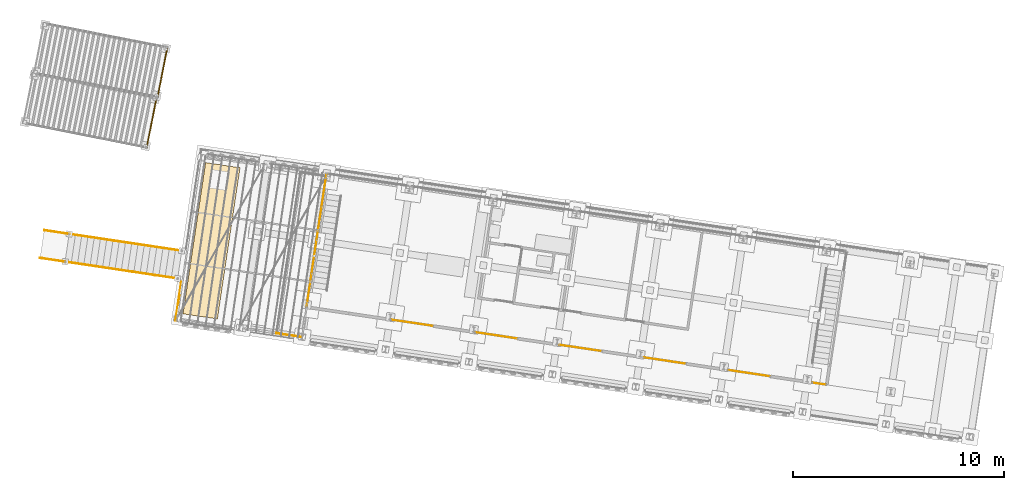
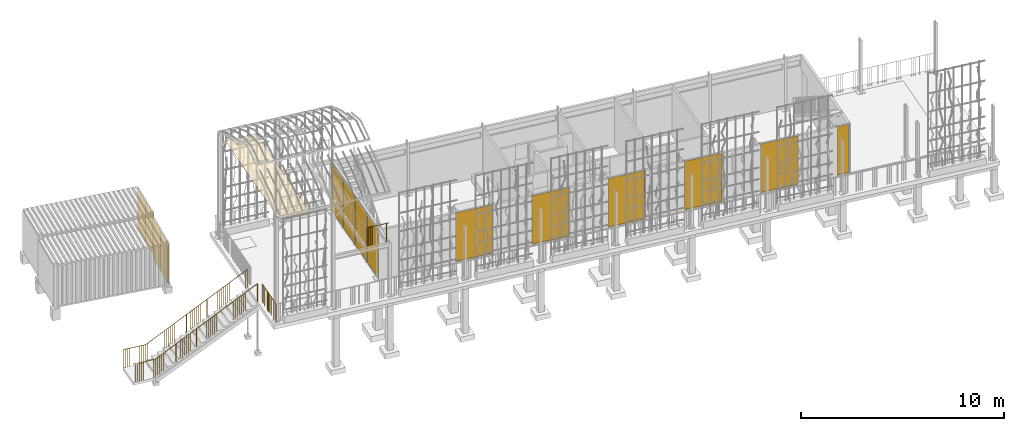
# One storey, part 138 of 143: 11 doors, 6 railings, 3 windows, 1 covering, 5 elements without a shape of their own.
"""IFC4 building model written with IfcOpenShell, lengths in metres."""

from ifc_helpers import new_model, si_unit, direction, frame, origin_with_axes, place, context, subcontext, project, spatial, polyline, circle, outline, extrude, material, element, aggregate, save


model = new_model("IFC4")

# Units and contexts
model_context = context("Model", 3, precision=1e-05, world=origin_with_axes(), true_north=direction((0.0, 1.0)))
body_context = subcontext(model_context, "Body", "Model", "MODEL_VIEW")
ifc_project = project(units=[si_unit("VOLUMEUNIT", "CUBIC_METRE"), si_unit("LENGTHUNIT", "METRE"), si_unit("AREAUNIT", "SQUARE_METRE")], contexts=[model_context])

# Site, building, storey
site_placement = place(None, origin_with_axes())
site = spatial("IfcSite", under=ifc_project, at=site_placement, Name="Lares · Rua das Mercês · artigo 4771")
building_placement = place(site_placement, frame((15.0, 9.7, 15.8), z_axis=(0.0, 0.0, 1.0), x_axis=(0.989015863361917, -0.147809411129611, 0.0)))
building = spatial("IfcBuilding", under=site, at=building_placement, Name="Casa Sobreposta")
storey_placement = place(building_placement, origin_with_axes())
storey = spatial("IfcBuildingStorey", under=building, at=storey_placement, Name="00 · Habitação e estacionamento", Elevation=15.8)

# Doors
ifc_material_1 = material(Name="Vidro / Normalglas", Category="glass")
door_1_placement = place(storey_placement, frame((0.0, 0.0, 0.025), z_axis=(0.0, 0.0, 1.0), x_axis=(1.0, 0.0, 0.0)))
element("IfcDoor", 1, at=door_1_placement, inside=storey, material=ifc_material_1, Name="Folha de correr sul 2", OperationType="SLIDING_TO_LEFT", OverallHeight=2.918, OverallWidth=1.97133333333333, PredefinedType="DOOR", context=body_context, shape_type="SweptSolid", body=[
    extrude(outline(polyline([(6.039, 0.004), (6.039, -0.004), (4.06766666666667, -0.004), (4.06766666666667, 0.004), (6.039, 0.004)])), origin_with_axes(), (0.0, 0.0, 1.0), 2.918),
])
door_2_placement = place(storey_placement, frame((0.0, 0.0, 0.025), z_axis=(0.0, 0.0, 1.0), x_axis=(1.0, 0.0, 0.0)))
element("IfcDoor", 2, at=door_2_placement, inside=storey, material=ifc_material_1, Name="Folha de correr sul 4", OperationType="SLIDING_TO_LEFT", OverallHeight=2.918, OverallWidth=1.97133333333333, PredefinedType="DOOR", context=body_context, shape_type="SweptSolid", body=[
    extrude(outline(polyline([(10.0816666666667, 0.004), (10.0816666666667, -0.004), (8.11033333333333, -0.004), (8.11033333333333, 0.004), (10.0816666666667, 0.004)])), origin_with_axes(), (0.0, 0.0, 1.0), 2.918),
])
door_3_placement = place(storey_placement, frame((0.0, 0.0, 0.025), z_axis=(0.0, 0.0, 1.0), x_axis=(1.0, 0.0, 0.0)))
element("IfcDoor", 3, at=door_3_placement, inside=storey, material=ifc_material_1, Name="Folha de correr sul 6", OperationType="SLIDING_TO_LEFT", OverallHeight=2.918, OverallWidth=1.97133333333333, PredefinedType="DOOR", context=body_context, shape_type="SweptSolid", body=[
    extrude(outline(polyline([(14.1243333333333, 0.004), (14.1243333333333, -0.004), (12.153, -0.004), (12.153, 0.004), (14.1243333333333, 0.004)])), origin_with_axes(), (0.0, 0.0, 1.0), 2.918),
])
door_4_placement = place(storey_placement, frame((0.0, 0.0, 0.025), z_axis=(0.0, 0.0, 1.0), x_axis=(1.0, 0.0, 0.0)))
element("IfcDoor", 4, at=door_4_placement, inside=storey, material=ifc_material_1, Name="Folha de correr sul 8", OperationType="SLIDING_TO_LEFT", OverallHeight=2.918, OverallWidth=1.97133333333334, PredefinedType="DOOR", context=body_context, shape_type="SweptSolid", body=[
    extrude(outline(polyline([(18.167, 0.004), (18.167, -0.004), (16.1956666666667, -0.004), (16.1956666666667, 0.004), (18.167, 0.004)])), origin_with_axes(), (0.0, 0.0, 1.0), 2.918),
])
door_5_placement = place(storey_placement, frame((0.0, 0.0, 0.025), z_axis=(0.0, 0.0, 1.0), x_axis=(1.0, 0.0, 0.0)))
element("IfcDoor", 5, at=door_5_placement, inside=storey, material=ifc_material_1, Name="Folha de correr sul 10", OperationType="SLIDING_TO_LEFT", OverallHeight=2.918, OverallWidth=1.97133333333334, PredefinedType="DOOR", context=body_context, shape_type="SweptSolid", body=[
    extrude(outline(polyline([(22.2096666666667, 0.004), (22.2096666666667, -0.004), (20.2383333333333, -0.004), (20.2383333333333, 0.004), (22.2096666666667, 0.004)])), origin_with_axes(), (0.0, 0.0, 1.0), 2.918),
])
door_6_placement = place(storey_placement, frame((0.0, 0.0, 0.025), z_axis=(0.0, 0.0, 1.0), x_axis=(1.0, 0.0, 0.0)))
element("IfcDoor", 6, at=door_6_placement, inside=storey, material=ifc_material_1, Name="Folha de correr sul 12", OperationType="SLIDING_TO_LEFT", OverallHeight=2.918, OverallWidth=0.614000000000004, PredefinedType="DOOR", context=body_context, shape_type="SweptSolid", body=[
    extrude(outline(polyline([(24.895, 0.004), (24.895, -0.004), (24.281, -0.004), (24.281, 0.004), (24.895, 0.004)])), origin_with_axes(), (0.0, 0.0, 1.0), 2.918),
])

# Windows
window_1_placement = place(storey_placement, frame((0.0, 0.0, 0.025), z_axis=(0.0, 0.0, 1.0), x_axis=(1.0, 0.0, 0.0)))
element("IfcWindow", 7, at=window_1_placement, inside=storey, material=ifc_material_1, Name="Fachada poente integralmente envidraçada · módulo 1", OverallHeight=2.918, OverallWidth=1.55, PartitioningType="SINGLE_PANEL", PredefinedType="WINDOW", context=body_context, shape_type="SweptSolid", body=[
    extrude(outline(polyline([(-0.004, 1.575), (0.004, 1.575), (0.004, 0.025), (-0.004, 0.025), (-0.004, 1.575)])), origin_with_axes(), (0.0, 0.0, 1.0), 2.918),
])
window_2_placement = place(storey_placement, frame((0.0, 0.0, 0.025), z_axis=(0.0, 0.0, 1.0), x_axis=(1.0, 0.0, 0.0)))
element("IfcWindow", 8, at=window_2_placement, inside=storey, material=ifc_material_1, Name="Fachada poente integralmente envidraçada · módulo 2", OverallHeight=2.918, OverallWidth=1.55, PartitioningType="SINGLE_PANEL", PredefinedType="WINDOW", context=body_context, shape_type="SweptSolid", body=[
    extrude(outline(polyline([(-0.004, 3.175), (0.004, 3.175), (0.004, 1.625), (-0.004, 1.625), (-0.004, 3.175)])), origin_with_axes(), (0.0, 0.0, 1.0), 2.918),
])
window_3_placement = place(storey_placement, frame((0.0, 0.0, 0.025), z_axis=(0.0, 0.0, 1.0), x_axis=(1.0, 0.0, 0.0)))
element("IfcWindow", 9, at=window_3_placement, inside=storey, material=ifc_material_1, Name="Fachada poente integralmente envidraçada · módulo 3", OverallHeight=2.918, OverallWidth=1.55, PartitioningType="SINGLE_PANEL", PredefinedType="WINDOW", context=body_context, shape_type="SweptSolid", body=[
    extrude(outline(polyline([(-0.004, 4.775), (0.004, 4.775), (0.004, 3.225), (-0.004, 3.225), (-0.004, 4.775)])), origin_with_axes(), (0.0, 0.0, 1.0), 2.918),
])

# Door
door_7_placement = place(storey_placement, frame((0.0, 0.0, 0.025), z_axis=(0.0, 0.0, 1.0), x_axis=(1.0, 0.0, 0.0)))
element("IfcDoor", 10, at=door_7_placement, inside=storey, material=ifc_material_1, Name="Fachada poente integralmente envidraçada · módulo 4", OperationType="SLIDING_TO_LEFT", OverallHeight=2.918, OverallWidth=1.55, PredefinedType="DOOR", context=body_context, shape_type="SweptSolid", body=[
    extrude(outline(polyline([(-0.004, 6.375), (0.004, 6.375), (0.004, 4.825), (-0.004, 4.825), (-0.004, 6.375)])), origin_with_axes(), (0.0, 0.0, 1.0), 2.918),
])

# Assembly, doors
assembly_1_placement = place(storey_placement, frame((-14.4335953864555, 9.04888612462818, 0.0), z_axis=(0.0, 0.0, 1.0), x_axis=(0.999032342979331, -0.0439815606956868, 0.0)))
assembly_1 = element("IfcElementAssembly", 11, at=assembly_1_placement, inside=storey, Name="Contentor existente 1 · 6 m", ObjectType="EXISTING_SHIPPING_CONTAINER", PredefinedType="USERDEFINED")
ifc_material_2 = material(Name="Contentor · pintura 1", Category="steel")
door_8_placement = place(assembly_1_placement, frame((0.0, 0.0, -2.06314181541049), z_axis=(0.0, 0.0, 1.0), x_axis=(1.0, 0.0, 0.0)))
door_8 = element("IfcDoor", 12, at=door_8_placement, material=ifc_material_2, Name="Contentor · porta dupla", OperationType="SINGLE_SWING_LEFT", OverallHeight=2.39, OverallWidth=1.17, PredefinedType="DOOR", context=body_context, shape_type="SweptSolid", body=[
    extrude(outline(polyline([(5.955, 1.21), (6.005, 1.21), (6.005, 0.04), (5.955, 0.04), (5.955, 1.21)])), origin_with_axes(), (0.0, 0.0, 1.0), 2.39),
])
door_9_placement = place(assembly_1_placement, frame((0.0, 0.0, -2.06314181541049), z_axis=(0.0, 0.0, 1.0), x_axis=(1.0, 0.0, 0.0)))
door_9 = element("IfcDoor", 13, at=door_9_placement, material=ifc_material_2, Name="Contentor · porta dupla", OperationType="SINGLE_SWING_LEFT", OverallHeight=2.39, OverallWidth=1.17, PredefinedType="DOOR", context=body_context, shape_type="SweptSolid", body=[
    extrude(outline(polyline([(5.955, 2.39), (6.005, 2.39), (6.005, 1.22), (5.955, 1.22), (5.955, 2.39)])), origin_with_axes(), (0.0, 0.0, 1.0), 2.39),
])
aggregate(assembly_1, [door_8, door_9])

assembly_2_placement = place(storey_placement, frame((-14.5932944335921, 6.63122214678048, 0.0), z_axis=(0.0, 0.0, 1.0), x_axis=(0.998832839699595, -0.0483007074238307, 0.0)))
assembly_2 = element("IfcElementAssembly", 14, at=assembly_2_placement, inside=storey, Name="Contentor existente 2 · 6 m", ObjectType="EXISTING_SHIPPING_CONTAINER", PredefinedType="USERDEFINED")
ifc_material_3 = material(Name="Contentor · pintura 2", Category="steel")
door_10_placement = place(assembly_2_placement, frame((0.0, 0.0, -2.21875169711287), z_axis=(0.0, 0.0, 1.0), x_axis=(1.0, 0.0, 0.0)))
door_10 = element("IfcDoor", 15, at=door_10_placement, material=ifc_material_3, Name="Contentor · porta dupla", OperationType="SINGLE_SWING_LEFT", OverallHeight=2.39, OverallWidth=1.17, PredefinedType="DOOR", context=body_context, shape_type="SweptSolid", body=[
    extrude(outline(polyline([(5.955, 1.21), (6.005, 1.21), (6.005, 0.04), (5.955, 0.04), (5.955, 1.21)])), origin_with_axes(), (0.0, 0.0, 1.0), 2.39),
])
door_11_placement = place(assembly_2_placement, frame((0.0, 0.0, -2.21875169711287), z_axis=(0.0, 0.0, 1.0), x_axis=(1.0, 0.0, 0.0)))
door_11 = element("IfcDoor", 16, at=door_11_placement, material=ifc_material_3, Name="Contentor · porta dupla", OperationType="SINGLE_SWING_LEFT", OverallHeight=2.39, OverallWidth=1.17, PredefinedType="DOOR", context=body_context, shape_type="SweptSolid", body=[
    extrude(outline(polyline([(5.955, 2.39), (6.005, 2.39), (6.005, 1.22), (5.955, 1.22), (5.955, 2.39)])), origin_with_axes(), (0.0, 0.0, 1.0), 2.39),
])
aggregate(assembly_2, [door_10, door_11])

# Assembly, railing
assembly_3_placement = place(storey_placement, origin_with_axes())
assembly_3 = element("IfcElementAssembly", 17, at=assembly_3_placement, inside=storey, Name="Pódio · terraço, casa térrea e cisterna", ObjectType="CISTERN_PODIUM", PredefinedType="USERDEFINED")
ifc_material_4 = material(Name="Aço pintado / Stahl lackiert", Category="steel")
railing_1_placement = place(assembly_3_placement, origin_with_axes())
railing_1 = element("IfcRailing", 18, at=railing_1_placement, material=ifc_material_4, Name="Pódio · guarda poente sul", PredefinedType="GUARDRAIL", context=body_context, shape_type="SweptSolid", body=[
    extrude(circle(Radius=0.015), frame((-6.05, -1.55, 1.06), z_axis=(0.0, 1.0, 0.0), x_axis=(1.0, 0.0, 0.0)), (0.0, 0.0, 1.0), 1.85),
    extrude(circle(Radius=0.0175), frame((-6.05, -1.55, -0.04), z_axis=(0.0, 0.0, 1.0), x_axis=(1.0, 0.0, 0.0)), (0.0, 0.0, 1.0), 1.1),
    extrude(circle(Radius=0.006), frame((-6.05, -1.44117647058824, -0.04), z_axis=(0.0, 0.0, 1.0), x_axis=(1.0, 0.0, 0.0)), (0.0, 0.0, 1.0), 1.1),
    extrude(circle(Radius=0.006), frame((-6.05, -1.33235294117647, -0.04), z_axis=(0.0, 0.0, 1.0), x_axis=(1.0, 0.0, 0.0)), (0.0, 0.0, 1.0), 1.1),
    extrude(circle(Radius=0.006), frame((-6.05, -1.22352941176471, -0.04), z_axis=(0.0, 0.0, 1.0), x_axis=(1.0, 0.0, 0.0)), (0.0, 0.0, 1.0), 1.1),
    extrude(circle(Radius=0.006), frame((-6.05, -1.11470588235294, -0.04), z_axis=(0.0, 0.0, 1.0), x_axis=(1.0, 0.0, 0.0)), (0.0, 0.0, 1.0), 1.1),
    extrude(circle(Radius=0.006), frame((-6.05, -1.00588235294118, -0.04), z_axis=(0.0, 0.0, 1.0), x_axis=(1.0, 0.0, 0.0)), (0.0, 0.0, 1.0), 1.1),
    extrude(circle(Radius=0.006), frame((-6.05, -0.897058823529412, -0.04), z_axis=(0.0, 0.0, 1.0), x_axis=(1.0, 0.0, 0.0)), (0.0, 0.0, 1.0), 1.1),
    extrude(circle(Radius=0.006), frame((-6.05, -0.788235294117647, -0.04), z_axis=(0.0, 0.0, 1.0), x_axis=(1.0, 0.0, 0.0)), (0.0, 0.0, 1.0), 1.1),
    extrude(circle(Radius=0.006), frame((-6.05, -0.679411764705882, -0.04), z_axis=(0.0, 0.0, 1.0), x_axis=(1.0, 0.0, 0.0)), (0.0, 0.0, 1.0), 1.1),
    extrude(circle(Radius=0.006), frame((-6.05, -0.570588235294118, -0.04), z_axis=(0.0, 0.0, 1.0), x_axis=(1.0, 0.0, 0.0)), (0.0, 0.0, 1.0), 1.1),
    extrude(circle(Radius=0.0175), frame((-6.05, -0.461764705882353, -0.04), z_axis=(0.0, 0.0, 1.0), x_axis=(1.0, 0.0, 0.0)), (0.0, 0.0, 1.0), 1.1),
    extrude(circle(Radius=0.006), frame((-6.05, -0.352941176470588, -0.04), z_axis=(0.0, 0.0, 1.0), x_axis=(1.0, 0.0, 0.0)), (0.0, 0.0, 1.0), 1.1),
    extrude(circle(Radius=0.006), frame((-6.05, -0.244117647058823, -0.04), z_axis=(0.0, 0.0, 1.0), x_axis=(1.0, 0.0, 0.0)), (0.0, 0.0, 1.0), 1.1),
    extrude(circle(Radius=0.006), frame((-6.05, -0.135294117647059, -0.04), z_axis=(0.0, 0.0, 1.0), x_axis=(1.0, 0.0, 0.0)), (0.0, 0.0, 1.0), 1.1),
    extrude(circle(Radius=0.006), frame((-6.05, -0.0264705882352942, -0.04), z_axis=(0.0, 0.0, 1.0), x_axis=(1.0, 0.0, 0.0)), (0.0, 0.0, 1.0), 1.1),
    extrude(circle(Radius=0.006), frame((-6.05, 0.0823529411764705, -0.04), z_axis=(0.0, 0.0, 1.0), x_axis=(1.0, 0.0, 0.0)), (0.0, 0.0, 1.0), 1.1),
    extrude(circle(Radius=0.006), frame((-6.05, 0.191176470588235, -0.04), z_axis=(0.0, 0.0, 1.0), x_axis=(1.0, 0.0, 0.0)), (0.0, 0.0, 1.0), 1.1),
    extrude(circle(Radius=0.006), frame((-6.05, 0.3, -0.04), z_axis=(0.0, 0.0, 1.0), x_axis=(1.0, 0.0, 0.0)), (0.0, 0.0, 1.0), 1.1),
])
aggregate(assembly_3, [railing_1])

# Stair, railings
stair_placement = place(storey_placement, origin_with_axes())
stair = element("IfcStair", 19, at=stair_placement, inside=storey, Name="Jardim · escada pela fachada poente", PredefinedType="STRAIGHT_RUN_STAIR")
railing_2_placement = place(stair_placement, origin_with_axes())
railing_2 = element("IfcRailing", 20, at=railing_2_placement, material=ifc_material_4, Name="Jardim · corrimão poente", PredefinedType="GUARDRAIL", context=body_context, shape_type="SweptSolid", body=[
    extrude(circle(Radius=0.015), frame((-6.25, 0.435, 1.06), z_axis=(-0.863082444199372, 0.0, -0.505063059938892), x_axis=(0.0, 1.0, 0.0)), (0.0, 0.0, 1.0), 6.25664446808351),
    extrude(circle(Radius=0.0175), frame((-6.25, 0.435, -0.04), z_axis=(0.0, 0.0, 1.0), x_axis=(1.0, 0.0, 0.0)), (0.0, 0.0, 1.0), 1.1),
    extrude(circle(Radius=0.006), frame((-6.358, 0.435, -0.1032), z_axis=(0.0, 0.0, 1.0), x_axis=(1.0, 0.0, 0.0)), (0.0, 0.0, 1.0), 1.1),
    extrude(circle(Radius=0.006), frame((-6.466, 0.435, -0.1664), z_axis=(0.0, 0.0, 1.0), x_axis=(1.0, 0.0, 0.0)), (0.0, 0.0, 1.0), 1.1),
    extrude(circle(Radius=0.006), frame((-6.574, 0.435, -0.2296), z_axis=(0.0, 0.0, 1.0), x_axis=(1.0, 0.0, 0.0)), (0.0, 0.0, 1.0), 1.1),
    extrude(circle(Radius=0.006), frame((-6.682, 0.435, -0.2928), z_axis=(0.0, 0.0, 1.0), x_axis=(1.0, 0.0, 0.0)), (0.0, 0.0, 1.0), 1.1),
    extrude(circle(Radius=0.006), frame((-6.79, 0.435, -0.356), z_axis=(0.0, 0.0, 1.0), x_axis=(1.0, 0.0, 0.0)), (0.0, 0.0, 1.0), 1.1),
    extrude(circle(Radius=0.006), frame((-6.898, 0.435, -0.4192), z_axis=(0.0, 0.0, 1.0), x_axis=(1.0, 0.0, 0.0)), (0.0, 0.0, 1.0), 1.1),
    extrude(circle(Radius=0.006), frame((-7.006, 0.435, -0.4824), z_axis=(0.0, 0.0, 1.0), x_axis=(1.0, 0.0, 0.0)), (0.0, 0.0, 1.0), 1.1),
    extrude(circle(Radius=0.006), frame((-7.114, 0.435, -0.5456), z_axis=(0.0, 0.0, 1.0), x_axis=(1.0, 0.0, 0.0)), (0.0, 0.0, 1.0), 1.1),
    extrude(circle(Radius=0.006), frame((-7.222, 0.435, -0.6088), z_axis=(0.0, 0.0, 1.0), x_axis=(1.0, 0.0, 0.0)), (0.0, 0.0, 1.0), 1.1),
    extrude(circle(Radius=0.0175), frame((-7.33, 0.435, -0.672), z_axis=(0.0, 0.0, 1.0), x_axis=(1.0, 0.0, 0.0)), (0.0, 0.0, 1.0), 1.1),
    extrude(circle(Radius=0.006), frame((-7.438, 0.435, -0.7352), z_axis=(0.0, 0.0, 1.0), x_axis=(1.0, 0.0, 0.0)), (0.0, 0.0, 1.0), 1.1),
    extrude(circle(Radius=0.006), frame((-7.546, 0.435, -0.7984), z_axis=(0.0, 0.0, 1.0), x_axis=(1.0, 0.0, 0.0)), (0.0, 0.0, 1.0), 1.1),
    extrude(circle(Radius=0.006), frame((-7.654, 0.435, -0.8616), z_axis=(0.0, 0.0, 1.0), x_axis=(1.0, 0.0, 0.0)), (0.0, 0.0, 1.0), 1.1),
    extrude(circle(Radius=0.006), frame((-7.762, 0.435, -0.9248), z_axis=(0.0, 0.0, 1.0), x_axis=(1.0, 0.0, 0.0)), (0.0, 0.0, 1.0), 1.1),
    extrude(circle(Radius=0.006), frame((-7.87, 0.435, -0.988), z_axis=(0.0, 0.0, 1.0), x_axis=(1.0, 0.0, 0.0)), (0.0, 0.0, 1.0), 1.1),
    extrude(circle(Radius=0.006), frame((-7.978, 0.435, -1.0512), z_axis=(0.0, 0.0, 1.0), x_axis=(1.0, 0.0, 0.0)), (0.0, 0.0, 1.0), 1.1),
    extrude(circle(Radius=0.006), frame((-8.086, 0.435, -1.1144), z_axis=(0.0, 0.0, 1.0), x_axis=(1.0, 0.0, 0.0)), (0.0, 0.0, 1.0), 1.1),
    extrude(circle(Radius=0.006), frame((-8.194, 0.435, -1.1776), z_axis=(0.0, 0.0, 1.0), x_axis=(1.0, 0.0, 0.0)), (0.0, 0.0, 1.0), 1.1),
    extrude(circle(Radius=0.006), frame((-8.302, 0.435, -1.2408), z_axis=(0.0, 0.0, 1.0), x_axis=(1.0, 0.0, 0.0)), (0.0, 0.0, 1.0), 1.1),
    extrude(circle(Radius=0.0175), frame((-8.41, 0.435, -1.304), z_axis=(0.0, 0.0, 1.0), x_axis=(1.0, 0.0, 0.0)), (0.0, 0.0, 1.0), 1.1),
    extrude(circle(Radius=0.006), frame((-8.518, 0.435, -1.3672), z_axis=(0.0, 0.0, 1.0), x_axis=(1.0, 0.0, 0.0)), (0.0, 0.0, 1.0), 1.1),
    extrude(circle(Radius=0.006), frame((-8.626, 0.435, -1.4304), z_axis=(0.0, 0.0, 1.0), x_axis=(1.0, 0.0, 0.0)), (0.0, 0.0, 1.0), 1.1),
    extrude(circle(Radius=0.006), frame((-8.734, 0.435, -1.4936), z_axis=(0.0, 0.0, 1.0), x_axis=(1.0, 0.0, 0.0)), (0.0, 0.0, 1.0), 1.1),
    extrude(circle(Radius=0.006), frame((-8.842, 0.435, -1.5568), z_axis=(0.0, 0.0, 1.0), x_axis=(1.0, 0.0, 0.0)), (0.0, 0.0, 1.0), 1.1),
    extrude(circle(Radius=0.006), frame((-8.95, 0.435, -1.62), z_axis=(0.0, 0.0, 1.0), x_axis=(1.0, 0.0, 0.0)), (0.0, 0.0, 1.0), 1.1),
    extrude(circle(Radius=0.006), frame((-9.058, 0.435, -1.6832), z_axis=(0.0, 0.0, 1.0), x_axis=(1.0, 0.0, 0.0)), (0.0, 0.0, 1.0), 1.1),
    extrude(circle(Radius=0.006), frame((-9.166, 0.435, -1.7464), z_axis=(0.0, 0.0, 1.0), x_axis=(1.0, 0.0, 0.0)), (0.0, 0.0, 1.0), 1.1),
    extrude(circle(Radius=0.006), frame((-9.274, 0.435, -1.8096), z_axis=(0.0, 0.0, 1.0), x_axis=(1.0, 0.0, 0.0)), (0.0, 0.0, 1.0), 1.1),
    extrude(circle(Radius=0.006), frame((-9.382, 0.435, -1.8728), z_axis=(0.0, 0.0, 1.0), x_axis=(1.0, 0.0, 0.0)), (0.0, 0.0, 1.0), 1.1),
    extrude(circle(Radius=0.0175), frame((-9.49, 0.435, -1.936), z_axis=(0.0, 0.0, 1.0), x_axis=(1.0, 0.0, 0.0)), (0.0, 0.0, 1.0), 1.1),
    extrude(circle(Radius=0.006), frame((-9.598, 0.435, -1.9992), z_axis=(0.0, 0.0, 1.0), x_axis=(1.0, 0.0, 0.0)), (0.0, 0.0, 1.0), 1.1),
    extrude(circle(Radius=0.006), frame((-9.706, 0.435, -2.0624), z_axis=(0.0, 0.0, 1.0), x_axis=(1.0, 0.0, 0.0)), (0.0, 0.0, 1.0), 1.1),
    extrude(circle(Radius=0.006), frame((-9.814, 0.435, -2.1256), z_axis=(0.0, 0.0, 1.0), x_axis=(1.0, 0.0, 0.0)), (0.0, 0.0, 1.0), 1.1),
    extrude(circle(Radius=0.006), frame((-9.922, 0.435, -2.1888), z_axis=(0.0, 0.0, 1.0), x_axis=(1.0, 0.0, 0.0)), (0.0, 0.0, 1.0), 1.1),
    extrude(circle(Radius=0.006), frame((-10.03, 0.435, -2.252), z_axis=(0.0, 0.0, 1.0), x_axis=(1.0, 0.0, 0.0)), (0.0, 0.0, 1.0), 1.1),
    extrude(circle(Radius=0.006), frame((-10.138, 0.435, -2.3152), z_axis=(0.0, 0.0, 1.0), x_axis=(1.0, 0.0, 0.0)), (0.0, 0.0, 1.0), 1.1),
    extrude(circle(Radius=0.006), frame((-10.246, 0.435, -2.3784), z_axis=(0.0, 0.0, 1.0), x_axis=(1.0, 0.0, 0.0)), (0.0, 0.0, 1.0), 1.1),
    extrude(circle(Radius=0.006), frame((-10.354, 0.435, -2.4416), z_axis=(0.0, 0.0, 1.0), x_axis=(1.0, 0.0, 0.0)), (0.0, 0.0, 1.0), 1.1),
    extrude(circle(Radius=0.006), frame((-10.462, 0.435, -2.5048), z_axis=(0.0, 0.0, 1.0), x_axis=(1.0, 0.0, 0.0)), (0.0, 0.0, 1.0), 1.1),
    extrude(circle(Radius=0.0175), frame((-10.57, 0.435, -2.568), z_axis=(0.0, 0.0, 1.0), x_axis=(1.0, 0.0, 0.0)), (0.0, 0.0, 1.0), 1.1),
    extrude(circle(Radius=0.006), frame((-10.678, 0.435, -2.6312), z_axis=(0.0, 0.0, 1.0), x_axis=(1.0, 0.0, 0.0)), (0.0, 0.0, 1.0), 1.1),
    extrude(circle(Radius=0.006), frame((-10.786, 0.435, -2.6944), z_axis=(0.0, 0.0, 1.0), x_axis=(1.0, 0.0, 0.0)), (0.0, 0.0, 1.0), 1.1),
    extrude(circle(Radius=0.006), frame((-10.894, 0.435, -2.7576), z_axis=(0.0, 0.0, 1.0), x_axis=(1.0, 0.0, 0.0)), (0.0, 0.0, 1.0), 1.1),
    extrude(circle(Radius=0.006), frame((-11.002, 0.435, -2.8208), z_axis=(0.0, 0.0, 1.0), x_axis=(1.0, 0.0, 0.0)), (0.0, 0.0, 1.0), 1.1),
    extrude(circle(Radius=0.006), frame((-11.11, 0.435, -2.884), z_axis=(0.0, 0.0, 1.0), x_axis=(1.0, 0.0, 0.0)), (0.0, 0.0, 1.0), 1.1),
    extrude(circle(Radius=0.006), frame((-11.218, 0.435, -2.9472), z_axis=(0.0, 0.0, 1.0), x_axis=(1.0, 0.0, 0.0)), (0.0, 0.0, 1.0), 1.1),
    extrude(circle(Radius=0.006), frame((-11.326, 0.435, -3.0104), z_axis=(0.0, 0.0, 1.0), x_axis=(1.0, 0.0, 0.0)), (0.0, 0.0, 1.0), 1.1),
    extrude(circle(Radius=0.006), frame((-11.434, 0.435, -3.0736), z_axis=(0.0, 0.0, 1.0), x_axis=(1.0, 0.0, 0.0)), (0.0, 0.0, 1.0), 1.1),
    extrude(circle(Radius=0.006), frame((-11.542, 0.435, -3.1368), z_axis=(0.0, 0.0, 1.0), x_axis=(1.0, 0.0, 0.0)), (0.0, 0.0, 1.0), 1.1),
    extrude(circle(Radius=0.0175), frame((-11.65, 0.435, -3.2), z_axis=(0.0, 0.0, 1.0), x_axis=(1.0, 0.0, 0.0)), (0.0, 0.0, 1.0), 1.1),
])
railing_3_placement = place(stair_placement, origin_with_axes())
railing_3 = element("IfcRailing", 21, at=railing_3_placement, material=ifc_material_4, Name="Jardim · guarda do patamar", PredefinedType="GUARDRAIL", context=body_context, shape_type="SweptSolid", body=[
    extrude(circle(Radius=0.015), frame((-11.65, 0.435, -2.1), z_axis=(-1.0, 0.0, 0.0), x_axis=(0.0, 1.0, 0.0)), (0.0, 0.0, 1.0), 1.2),
    extrude(circle(Radius=0.0175), frame((-11.65, 0.435, -3.2), z_axis=(0.0, 0.0, 1.0), x_axis=(1.0, 0.0, 0.0)), (0.0, 0.0, 1.0), 1.1),
    extrude(circle(Radius=0.006), frame((-11.7590909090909, 0.435, -3.2), z_axis=(0.0, 0.0, 1.0), x_axis=(1.0, 0.0, 0.0)), (0.0, 0.0, 1.0), 1.1),
    extrude(circle(Radius=0.006), frame((-11.8681818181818, 0.435, -3.2), z_axis=(0.0, 0.0, 1.0), x_axis=(1.0, 0.0, 0.0)), (0.0, 0.0, 1.0), 1.1),
    extrude(circle(Radius=0.006), frame((-11.9772727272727, 0.435, -3.2), z_axis=(0.0, 0.0, 1.0), x_axis=(1.0, 0.0, 0.0)), (0.0, 0.0, 1.0), 1.1),
    extrude(circle(Radius=0.006), frame((-12.0863636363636, 0.435, -3.2), z_axis=(0.0, 0.0, 1.0), x_axis=(1.0, 0.0, 0.0)), (0.0, 0.0, 1.0), 1.1),
    extrude(circle(Radius=0.006), frame((-12.1954545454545, 0.435, -3.2), z_axis=(0.0, 0.0, 1.0), x_axis=(1.0, 0.0, 0.0)), (0.0, 0.0, 1.0), 1.1),
    extrude(circle(Radius=0.006), frame((-12.3045454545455, 0.435, -3.2), z_axis=(0.0, 0.0, 1.0), x_axis=(1.0, 0.0, 0.0)), (0.0, 0.0, 1.0), 1.1),
    extrude(circle(Radius=0.006), frame((-12.4136363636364, 0.435, -3.2), z_axis=(0.0, 0.0, 1.0), x_axis=(1.0, 0.0, 0.0)), (0.0, 0.0, 1.0), 1.1),
    extrude(circle(Radius=0.006), frame((-12.5227272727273, 0.435, -3.2), z_axis=(0.0, 0.0, 1.0), x_axis=(1.0, 0.0, 0.0)), (0.0, 0.0, 1.0), 1.1),
    extrude(circle(Radius=0.006), frame((-12.6318181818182, 0.435, -3.2), z_axis=(0.0, 0.0, 1.0), x_axis=(1.0, 0.0, 0.0)), (0.0, 0.0, 1.0), 1.1),
    extrude(circle(Radius=0.0175), frame((-12.7409090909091, 0.435, -3.2), z_axis=(0.0, 0.0, 1.0), x_axis=(1.0, 0.0, 0.0)), (0.0, 0.0, 1.0), 1.1),
    extrude(circle(Radius=0.006), frame((-12.85, 0.435, -3.2), z_axis=(0.0, 0.0, 1.0), x_axis=(1.0, 0.0, 0.0)), (0.0, 0.0, 1.0), 1.1),
])
railing_4_placement = place(stair_placement, origin_with_axes())
railing_4 = element("IfcRailing", 22, at=railing_4_placement, material=ifc_material_4, Name="Jardim · corrimão poente", PredefinedType="GUARDRAIL", context=body_context, shape_type="SweptSolid", body=[
    extrude(circle(Radius=0.015), frame((-6.25, 1.765, 1.06), z_axis=(-0.863082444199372, 0.0, -0.505063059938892), x_axis=(0.0, 1.0, 0.0)), (0.0, 0.0, 1.0), 6.25664446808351),
    extrude(circle(Radius=0.0175), frame((-6.25, 1.765, -0.04), z_axis=(0.0, 0.0, 1.0), x_axis=(1.0, 0.0, 0.0)), (0.0, 0.0, 1.0), 1.1),
    extrude(circle(Radius=0.006), frame((-6.358, 1.765, -0.1032), z_axis=(0.0, 0.0, 1.0), x_axis=(1.0, 0.0, 0.0)), (0.0, 0.0, 1.0), 1.1),
    extrude(circle(Radius=0.006), frame((-6.466, 1.765, -0.1664), z_axis=(0.0, 0.0, 1.0), x_axis=(1.0, 0.0, 0.0)), (0.0, 0.0, 1.0), 1.1),
    extrude(circle(Radius=0.006), frame((-6.574, 1.765, -0.2296), z_axis=(0.0, 0.0, 1.0), x_axis=(1.0, 0.0, 0.0)), (0.0, 0.0, 1.0), 1.1),
    extrude(circle(Radius=0.006), frame((-6.682, 1.765, -0.2928), z_axis=(0.0, 0.0, 1.0), x_axis=(1.0, 0.0, 0.0)), (0.0, 0.0, 1.0), 1.1),
    extrude(circle(Radius=0.006), frame((-6.79, 1.765, -0.356), z_axis=(0.0, 0.0, 1.0), x_axis=(1.0, 0.0, 0.0)), (0.0, 0.0, 1.0), 1.1),
    extrude(circle(Radius=0.006), frame((-6.898, 1.765, -0.4192), z_axis=(0.0, 0.0, 1.0), x_axis=(1.0, 0.0, 0.0)), (0.0, 0.0, 1.0), 1.1),
    extrude(circle(Radius=0.006), frame((-7.006, 1.765, -0.4824), z_axis=(0.0, 0.0, 1.0), x_axis=(1.0, 0.0, 0.0)), (0.0, 0.0, 1.0), 1.1),
    extrude(circle(Radius=0.006), frame((-7.114, 1.765, -0.5456), z_axis=(0.0, 0.0, 1.0), x_axis=(1.0, 0.0, 0.0)), (0.0, 0.0, 1.0), 1.1),
    extrude(circle(Radius=0.006), frame((-7.222, 1.765, -0.6088), z_axis=(0.0, 0.0, 1.0), x_axis=(1.0, 0.0, 0.0)), (0.0, 0.0, 1.0), 1.1),
    extrude(circle(Radius=0.0175), frame((-7.33, 1.765, -0.672), z_axis=(0.0, 0.0, 1.0), x_axis=(1.0, 0.0, 0.0)), (0.0, 0.0, 1.0), 1.1),
    extrude(circle(Radius=0.006), frame((-7.438, 1.765, -0.7352), z_axis=(0.0, 0.0, 1.0), x_axis=(1.0, 0.0, 0.0)), (0.0, 0.0, 1.0), 1.1),
    extrude(circle(Radius=0.006), frame((-7.546, 1.765, -0.7984), z_axis=(0.0, 0.0, 1.0), x_axis=(1.0, 0.0, 0.0)), (0.0, 0.0, 1.0), 1.1),
    extrude(circle(Radius=0.006), frame((-7.654, 1.765, -0.8616), z_axis=(0.0, 0.0, 1.0), x_axis=(1.0, 0.0, 0.0)), (0.0, 0.0, 1.0), 1.1),
    extrude(circle(Radius=0.006), frame((-7.762, 1.765, -0.9248), z_axis=(0.0, 0.0, 1.0), x_axis=(1.0, 0.0, 0.0)), (0.0, 0.0, 1.0), 1.1),
    extrude(circle(Radius=0.006), frame((-7.87, 1.765, -0.988), z_axis=(0.0, 0.0, 1.0), x_axis=(1.0, 0.0, 0.0)), (0.0, 0.0, 1.0), 1.1),
    extrude(circle(Radius=0.006), frame((-7.978, 1.765, -1.0512), z_axis=(0.0, 0.0, 1.0), x_axis=(1.0, 0.0, 0.0)), (0.0, 0.0, 1.0), 1.1),
    extrude(circle(Radius=0.006), frame((-8.086, 1.765, -1.1144), z_axis=(0.0, 0.0, 1.0), x_axis=(1.0, 0.0, 0.0)), (0.0, 0.0, 1.0), 1.1),
    extrude(circle(Radius=0.006), frame((-8.194, 1.765, -1.1776), z_axis=(0.0, 0.0, 1.0), x_axis=(1.0, 0.0, 0.0)), (0.0, 0.0, 1.0), 1.1),
    extrude(circle(Radius=0.006), frame((-8.302, 1.765, -1.2408), z_axis=(0.0, 0.0, 1.0), x_axis=(1.0, 0.0, 0.0)), (0.0, 0.0, 1.0), 1.1),
    extrude(circle(Radius=0.0175), frame((-8.41, 1.765, -1.304), z_axis=(0.0, 0.0, 1.0), x_axis=(1.0, 0.0, 0.0)), (0.0, 0.0, 1.0), 1.1),
    extrude(circle(Radius=0.006), frame((-8.518, 1.765, -1.3672), z_axis=(0.0, 0.0, 1.0), x_axis=(1.0, 0.0, 0.0)), (0.0, 0.0, 1.0), 1.1),
    extrude(circle(Radius=0.006), frame((-8.626, 1.765, -1.4304), z_axis=(0.0, 0.0, 1.0), x_axis=(1.0, 0.0, 0.0)), (0.0, 0.0, 1.0), 1.1),
    extrude(circle(Radius=0.006), frame((-8.734, 1.765, -1.4936), z_axis=(0.0, 0.0, 1.0), x_axis=(1.0, 0.0, 0.0)), (0.0, 0.0, 1.0), 1.1),
    extrude(circle(Radius=0.006), frame((-8.842, 1.765, -1.5568), z_axis=(0.0, 0.0, 1.0), x_axis=(1.0, 0.0, 0.0)), (0.0, 0.0, 1.0), 1.1),
    extrude(circle(Radius=0.006), frame((-8.95, 1.765, -1.62), z_axis=(0.0, 0.0, 1.0), x_axis=(1.0, 0.0, 0.0)), (0.0, 0.0, 1.0), 1.1),
    extrude(circle(Radius=0.006), frame((-9.058, 1.765, -1.6832), z_axis=(0.0, 0.0, 1.0), x_axis=(1.0, 0.0, 0.0)), (0.0, 0.0, 1.0), 1.1),
    extrude(circle(Radius=0.006), frame((-9.166, 1.765, -1.7464), z_axis=(0.0, 0.0, 1.0), x_axis=(1.0, 0.0, 0.0)), (0.0, 0.0, 1.0), 1.1),
    extrude(circle(Radius=0.006), frame((-9.274, 1.765, -1.8096), z_axis=(0.0, 0.0, 1.0), x_axis=(1.0, 0.0, 0.0)), (0.0, 0.0, 1.0), 1.1),
    extrude(circle(Radius=0.006), frame((-9.382, 1.765, -1.8728), z_axis=(0.0, 0.0, 1.0), x_axis=(1.0, 0.0, 0.0)), (0.0, 0.0, 1.0), 1.1),
    extrude(circle(Radius=0.0175), frame((-9.49, 1.765, -1.936), z_axis=(0.0, 0.0, 1.0), x_axis=(1.0, 0.0, 0.0)), (0.0, 0.0, 1.0), 1.1),
    extrude(circle(Radius=0.006), frame((-9.598, 1.765, -1.9992), z_axis=(0.0, 0.0, 1.0), x_axis=(1.0, 0.0, 0.0)), (0.0, 0.0, 1.0), 1.1),
    extrude(circle(Radius=0.006), frame((-9.706, 1.765, -2.0624), z_axis=(0.0, 0.0, 1.0), x_axis=(1.0, 0.0, 0.0)), (0.0, 0.0, 1.0), 1.1),
    extrude(circle(Radius=0.006), frame((-9.814, 1.765, -2.1256), z_axis=(0.0, 0.0, 1.0), x_axis=(1.0, 0.0, 0.0)), (0.0, 0.0, 1.0), 1.1),
    extrude(circle(Radius=0.006), frame((-9.922, 1.765, -2.1888), z_axis=(0.0, 0.0, 1.0), x_axis=(1.0, 0.0, 0.0)), (0.0, 0.0, 1.0), 1.1),
    extrude(circle(Radius=0.006), frame((-10.03, 1.765, -2.252), z_axis=(0.0, 0.0, 1.0), x_axis=(1.0, 0.0, 0.0)), (0.0, 0.0, 1.0), 1.1),
    extrude(circle(Radius=0.006), frame((-10.138, 1.765, -2.3152), z_axis=(0.0, 0.0, 1.0), x_axis=(1.0, 0.0, 0.0)), (0.0, 0.0, 1.0), 1.1),
    extrude(circle(Radius=0.006), frame((-10.246, 1.765, -2.3784), z_axis=(0.0, 0.0, 1.0), x_axis=(1.0, 0.0, 0.0)), (0.0, 0.0, 1.0), 1.1),
    extrude(circle(Radius=0.006), frame((-10.354, 1.765, -2.4416), z_axis=(0.0, 0.0, 1.0), x_axis=(1.0, 0.0, 0.0)), (0.0, 0.0, 1.0), 1.1),
    extrude(circle(Radius=0.006), frame((-10.462, 1.765, -2.5048), z_axis=(0.0, 0.0, 1.0), x_axis=(1.0, 0.0, 0.0)), (0.0, 0.0, 1.0), 1.1),
    extrude(circle(Radius=0.0175), frame((-10.57, 1.765, -2.568), z_axis=(0.0, 0.0, 1.0), x_axis=(1.0, 0.0, 0.0)), (0.0, 0.0, 1.0), 1.1),
    extrude(circle(Radius=0.006), frame((-10.678, 1.765, -2.6312), z_axis=(0.0, 0.0, 1.0), x_axis=(1.0, 0.0, 0.0)), (0.0, 0.0, 1.0), 1.1),
    extrude(circle(Radius=0.006), frame((-10.786, 1.765, -2.6944), z_axis=(0.0, 0.0, 1.0), x_axis=(1.0, 0.0, 0.0)), (0.0, 0.0, 1.0), 1.1),
    extrude(circle(Radius=0.006), frame((-10.894, 1.765, -2.7576), z_axis=(0.0, 0.0, 1.0), x_axis=(1.0, 0.0, 0.0)), (0.0, 0.0, 1.0), 1.1),
    extrude(circle(Radius=0.006), frame((-11.002, 1.765, -2.8208), z_axis=(0.0, 0.0, 1.0), x_axis=(1.0, 0.0, 0.0)), (0.0, 0.0, 1.0), 1.1),
    extrude(circle(Radius=0.006), frame((-11.11, 1.765, -2.884), z_axis=(0.0, 0.0, 1.0), x_axis=(1.0, 0.0, 0.0)), (0.0, 0.0, 1.0), 1.1),
    extrude(circle(Radius=0.006), frame((-11.218, 1.765, -2.9472), z_axis=(0.0, 0.0, 1.0), x_axis=(1.0, 0.0, 0.0)), (0.0, 0.0, 1.0), 1.1),
    extrude(circle(Radius=0.006), frame((-11.326, 1.765, -3.0104), z_axis=(0.0, 0.0, 1.0), x_axis=(1.0, 0.0, 0.0)), (0.0, 0.0, 1.0), 1.1),
    extrude(circle(Radius=0.006), frame((-11.434, 1.765, -3.0736), z_axis=(0.0, 0.0, 1.0), x_axis=(1.0, 0.0, 0.0)), (0.0, 0.0, 1.0), 1.1),
    extrude(circle(Radius=0.006), frame((-11.542, 1.765, -3.1368), z_axis=(0.0, 0.0, 1.0), x_axis=(1.0, 0.0, 0.0)), (0.0, 0.0, 1.0), 1.1),
    extrude(circle(Radius=0.0175), frame((-11.65, 1.765, -3.2), z_axis=(0.0, 0.0, 1.0), x_axis=(1.0, 0.0, 0.0)), (0.0, 0.0, 1.0), 1.1),
])
railing_5_placement = place(stair_placement, origin_with_axes())
railing_5 = element("IfcRailing", 23, at=railing_5_placement, material=ifc_material_4, Name="Jardim · guarda do patamar", PredefinedType="GUARDRAIL", context=body_context, shape_type="SweptSolid", body=[
    extrude(circle(Radius=0.015), frame((-11.65, 1.765, -2.1), z_axis=(-1.0, 0.0, 0.0), x_axis=(0.0, 1.0, 0.0)), (0.0, 0.0, 1.0), 1.2),
    extrude(circle(Radius=0.0175), frame((-11.65, 1.765, -3.2), z_axis=(0.0, 0.0, 1.0), x_axis=(1.0, 0.0, 0.0)), (0.0, 0.0, 1.0), 1.1),
    extrude(circle(Radius=0.006), frame((-11.7590909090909, 1.765, -3.2), z_axis=(0.0, 0.0, 1.0), x_axis=(1.0, 0.0, 0.0)), (0.0, 0.0, 1.0), 1.1),
    extrude(circle(Radius=0.006), frame((-11.8681818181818, 1.765, -3.2), z_axis=(0.0, 0.0, 1.0), x_axis=(1.0, 0.0, 0.0)), (0.0, 0.0, 1.0), 1.1),
    extrude(circle(Radius=0.006), frame((-11.9772727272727, 1.765, -3.2), z_axis=(0.0, 0.0, 1.0), x_axis=(1.0, 0.0, 0.0)), (0.0, 0.0, 1.0), 1.1),
    extrude(circle(Radius=0.006), frame((-12.0863636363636, 1.765, -3.2), z_axis=(0.0, 0.0, 1.0), x_axis=(1.0, 0.0, 0.0)), (0.0, 0.0, 1.0), 1.1),
    extrude(circle(Radius=0.006), frame((-12.1954545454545, 1.765, -3.2), z_axis=(0.0, 0.0, 1.0), x_axis=(1.0, 0.0, 0.0)), (0.0, 0.0, 1.0), 1.1),
    extrude(circle(Radius=0.006), frame((-12.3045454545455, 1.765, -3.2), z_axis=(0.0, 0.0, 1.0), x_axis=(1.0, 0.0, 0.0)), (0.0, 0.0, 1.0), 1.1),
    extrude(circle(Radius=0.006), frame((-12.4136363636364, 1.765, -3.2), z_axis=(0.0, 0.0, 1.0), x_axis=(1.0, 0.0, 0.0)), (0.0, 0.0, 1.0), 1.1),
    extrude(circle(Radius=0.006), frame((-12.5227272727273, 1.765, -3.2), z_axis=(0.0, 0.0, 1.0), x_axis=(1.0, 0.0, 0.0)), (0.0, 0.0, 1.0), 1.1),
    extrude(circle(Radius=0.006), frame((-12.6318181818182, 1.765, -3.2), z_axis=(0.0, 0.0, 1.0), x_axis=(1.0, 0.0, 0.0)), (0.0, 0.0, 1.0), 1.1),
    extrude(circle(Radius=0.0175), frame((-12.7409090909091, 1.765, -3.2), z_axis=(0.0, 0.0, 1.0), x_axis=(1.0, 0.0, 0.0)), (0.0, 0.0, 1.0), 1.1),
    extrude(circle(Radius=0.006), frame((-12.85, 1.765, -3.2), z_axis=(0.0, 0.0, 1.0), x_axis=(1.0, 0.0, 0.0)), (0.0, 0.0, 1.0), 1.1),
])
aggregate(stair, [railing_2, railing_3, railing_4, railing_5])

# Assembly, railing, covering
assembly_4_placement = place(storey_placement, origin_with_axes())
assembly_4 = element("IfcElementAssembly", 24, at=assembly_4_placement, inside=storey, Name="Pérgola · prolongamento da estufa 6 m", ObjectType="PERGOLA_GREENHOUSE_EXTENSION", PredefinedType="USERDEFINED")
railing_6_placement = place(assembly_4_placement, origin_with_axes())
railing_6 = element("IfcRailing", 25, at=railing_6_placement, material=ifc_material_4, Name="Varanda · guarda", PredefinedType="GUARDRAIL", context=body_context, shape_type="SweptSolid", body=[
    extrude(circle(Radius=0.015), frame((-1.225, -1.44, 4.34), z_axis=(1.0, 0.0, 0.0), x_axis=(0.0, -1.0, 0.0)), (0.0, 0.0, 1.0), 1.175),
    extrude(circle(Radius=0.0175), frame((-1.225, -1.44, 3.24), z_axis=(0.0, 0.0, 1.0), x_axis=(1.0, 0.0, 0.0)), (0.0, 0.0, 1.0), 1.1),
    extrude(circle(Radius=0.006), frame((-1.11818181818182, -1.44, 3.24), z_axis=(0.0, 0.0, 1.0), x_axis=(1.0, 0.0, 0.0)), (0.0, 0.0, 1.0), 1.1),
    extrude(circle(Radius=0.006), frame((-1.01136363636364, -1.44, 3.24), z_axis=(0.0, 0.0, 1.0), x_axis=(1.0, 0.0, 0.0)), (0.0, 0.0, 1.0), 1.1),
    extrude(circle(Radius=0.006), frame((-0.904545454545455, -1.44, 3.24), z_axis=(0.0, 0.0, 1.0), x_axis=(1.0, 0.0, 0.0)), (0.0, 0.0, 1.0), 1.1),
    extrude(circle(Radius=0.006), frame((-0.797727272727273, -1.44, 3.24), z_axis=(0.0, 0.0, 1.0), x_axis=(1.0, 0.0, 0.0)), (0.0, 0.0, 1.0), 1.1),
    extrude(circle(Radius=0.006), frame((-0.690909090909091, -1.44, 3.24), z_axis=(0.0, 0.0, 1.0), x_axis=(1.0, 0.0, 0.0)), (0.0, 0.0, 1.0), 1.1),
    extrude(circle(Radius=0.006), frame((-0.584090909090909, -1.44, 3.24), z_axis=(0.0, 0.0, 1.0), x_axis=(1.0, 0.0, 0.0)), (0.0, 0.0, 1.0), 1.1),
    extrude(circle(Radius=0.006), frame((-0.477272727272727, -1.44, 3.24), z_axis=(0.0, 0.0, 1.0), x_axis=(1.0, 0.0, 0.0)), (0.0, 0.0, 1.0), 1.1),
    extrude(circle(Radius=0.006), frame((-0.370454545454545, -1.44, 3.24), z_axis=(0.0, 0.0, 1.0), x_axis=(1.0, 0.0, 0.0)), (0.0, 0.0, 1.0), 1.1),
    extrude(circle(Radius=0.006), frame((-0.263636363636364, -1.44, 3.24), z_axis=(0.0, 0.0, 1.0), x_axis=(1.0, 0.0, 0.0)), (0.0, 0.0, 1.0), 1.1),
    extrude(circle(Radius=0.0175), frame((-0.156818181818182, -1.44, 3.24), z_axis=(0.0, 0.0, 1.0), x_axis=(1.0, 0.0, 0.0)), (0.0, 0.0, 1.0), 1.1),
    extrude(circle(Radius=0.006), frame((-0.05, -1.44, 3.24), z_axis=(0.0, 0.0, 1.0), x_axis=(1.0, 0.0, 0.0)), (0.0, 0.0, 1.0), 1.1),
])
ifc_material_5 = material(Name="Tecido de sombreamento — hipótese", Category="fabric")
covering_placement = place(assembly_4_placement, frame((0.0, 0.0, 5.86), z_axis=(0.0, 0.0, 1.0), x_axis=(1.0, 0.0, 0.0)))
covering = element("IfcCovering", 26, at=covering_placement, material=ifc_material_5, Name="Pátio · sombreador têxtil retrátil", ObjectType="Pátio · sombreador têxtil retrátil", PredefinedType="USERDEFINED", context=body_context, shape_type="SweptSolid", body=[
    extrude(outline(polyline([(-4.1, -1.18), (-4.1, 6.07), (-5.75, 6.07), (-5.75, -1.18), (-4.1, -1.18)])), origin_with_axes(), (0.0, 0.0, 1.0), 0.004),
])
aggregate(assembly_4, [railing_6, covering])

save(model, "model.ifc")
